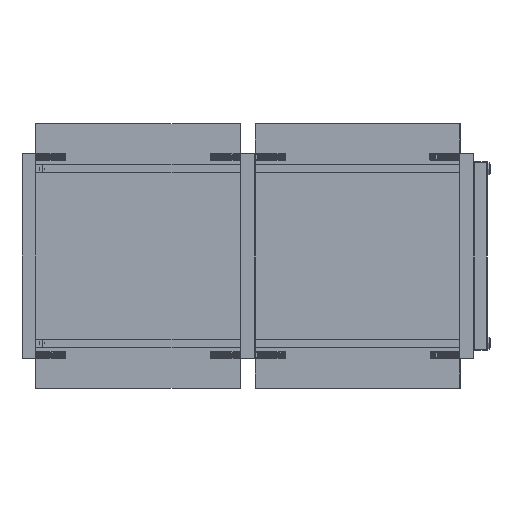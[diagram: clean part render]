
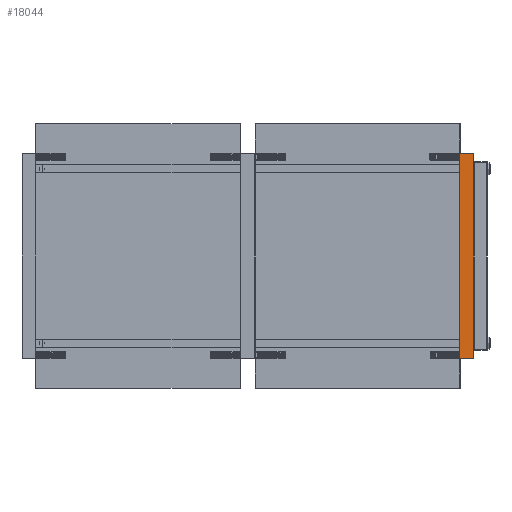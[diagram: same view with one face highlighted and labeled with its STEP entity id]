
A CAD part, left-side view. The second image highlights one B-rep face of the part: STEP entity #18044.
In plain terms, the highlighted planar face has unit normal (-1, 0, 0).
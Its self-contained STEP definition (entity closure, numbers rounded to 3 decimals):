
#88 = LINE ( 'NONE', #3256, #32630 ) ;
#422 = CARTESIAN_POINT ( 'NONE',  ( -967.5, 12.5, 187.5 ) ) ;
#441 = ORIENTED_EDGE ( 'NONE', *, *, #4657, .T. ) ;
#3256 = CARTESIAN_POINT ( 'NONE',  ( -967.5, 12.5, -187.5 ) ) ;
#3820 = EDGE_LOOP ( 'NONE', ( #31662, #17501, #20561, #441 ) ) ;
#4657 = EDGE_CURVE ( 'NONE', #11535, #20660, #22866, .T. ) ;
#6025 = CARTESIAN_POINT ( 'NONE',  ( -967.5, -12.5, -187.5 ) ) ;
#6041 = CARTESIAN_POINT ( 'NONE',  ( -967.5, -12.5, 187.5 ) ) ;
#6053 = EDGE_CURVE ( 'NONE', #11535, #21060, #88, .T. ) ;
#6556 = FACE_OUTER_BOUND ( 'NONE', #3820, .T. ) ;
#7274 = LINE ( 'NONE', #9876, #30857 ) ;
#9331 = CARTESIAN_POINT ( 'NONE',  ( -967.5, 12.5, -187.5 ) ) ;
#9367 = LINE ( 'NONE', #422, #15923 ) ;
#9876 = CARTESIAN_POINT ( 'NONE',  ( -967.5, -12.5, -187.5 ) ) ;
#9885 = PLANE ( 'NONE',  #19568 ) ;
#11535 = VERTEX_POINT ( 'NONE', #28270 ) ;
#12842 = DIRECTION ( 'NONE',  ( 1., 0., 0. ) ) ;
#14398 = VECTOR ( 'NONE', #33737, 1000. ) ;
#14959 = DIRECTION ( 'NONE',  ( 0., 0., 1. ) ) ;
#15923 = VECTOR ( 'NONE', #23346, 1000. ) ;
#16486 = EDGE_CURVE ( 'NONE', #20660, #23002, #7274, .T. ) ;
#17501 = ORIENTED_EDGE ( 'NONE', *, *, #34805, .F. ) ;
#18044 = ADVANCED_FACE ( 'NONE', ( #6556 ), #9885, .F. ) ;
#19568 = AXIS2_PLACEMENT_3D ( 'NONE', #9331, #12842, #21259 ) ;
#20561 = ORIENTED_EDGE ( 'NONE', *, *, #6053, .F. ) ;
#20660 = VERTEX_POINT ( 'NONE', #6025 ) ;
#21060 = VERTEX_POINT ( 'NONE', #28921 ) ;
#21249 = DIRECTION ( 'NONE',  ( 0., 0., 1. ) ) ;
#21259 = DIRECTION ( 'NONE',  ( 0., 0., -1. ) ) ;
#22319 = CARTESIAN_POINT ( 'NONE',  ( -967.5, 12.5, -187.5 ) ) ;
#22866 = LINE ( 'NONE', #22319, #14398 ) ;
#23002 = VERTEX_POINT ( 'NONE', #6041 ) ;
#23346 = DIRECTION ( 'NONE',  ( 0., -1., 0. ) ) ;
#28270 = CARTESIAN_POINT ( 'NONE',  ( -967.5, 12.5, -187.5 ) ) ;
#28921 = CARTESIAN_POINT ( 'NONE',  ( -967.5, 12.5, 187.5 ) ) ;
#30857 = VECTOR ( 'NONE', #21249, 1000. ) ;
#31662 = ORIENTED_EDGE ( 'NONE', *, *, #16486, .T. ) ;
#32630 = VECTOR ( 'NONE', #14959, 1000. ) ;
#33737 = DIRECTION ( 'NONE',  ( 0., -1., 0. ) ) ;
#34805 = EDGE_CURVE ( 'NONE', #21060, #23002, #9367, .T. ) ;
